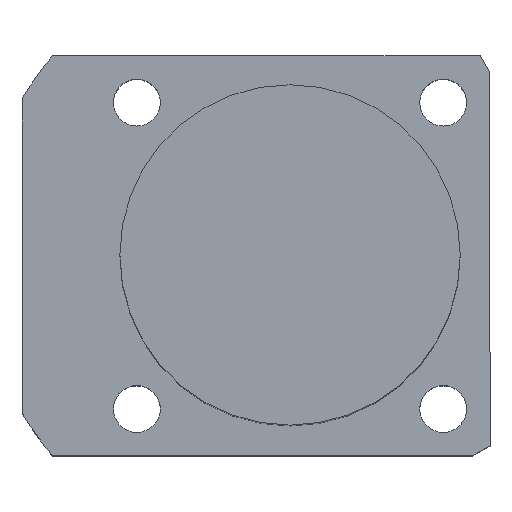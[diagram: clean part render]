
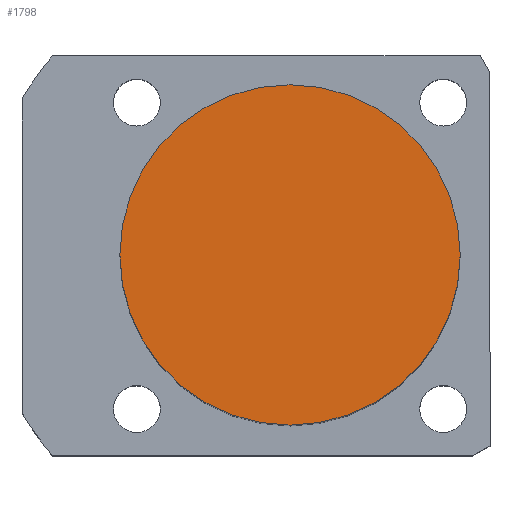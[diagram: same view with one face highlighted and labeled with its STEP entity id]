
A CAD part, top view. The second image highlights one B-rep face of the part: STEP entity #1798.
In plain terms, the highlighted planar face has unit normal (0, 0, 1).
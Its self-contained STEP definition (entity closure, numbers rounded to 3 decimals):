
#11 = VERTEX_POINT ( 'NONE', #1895 ) ;
#128 = DIRECTION ( 'NONE',  ( 1., 0., 0. ) ) ;
#138 = CARTESIAN_POINT ( 'NONE',  ( 20., 0., 71.5 ) ) ;
#293 = CARTESIAN_POINT ( 'NONE',  ( 0., 0., 71.5 ) ) ;
#309 = DIRECTION ( 'NONE',  ( 0., 0., 1. ) ) ;
#418 = AXIS2_PLACEMENT_3D ( 'NONE', #293, #458, #128 ) ;
#456 = DIRECTION ( 'NONE',  ( 0., 0., 1. ) ) ;
#458 = DIRECTION ( 'NONE',  ( 0., 0., 1. ) ) ;
#612 = DIRECTION ( 'NONE',  ( 1., 0., 0. ) ) ;
#836 = ORIENTED_EDGE ( 'NONE', *, *, #1555, .T. ) ;
#875 = FACE_OUTER_BOUND ( 'NONE', #1158, .T. ) ;
#877 = PLANE ( 'NONE',  #418 ) ;
#884 = DIRECTION ( 'NONE',  ( 1., 0., 0. ) ) ;
#934 = CIRCLE ( 'NONE', #1087, 20. ) ;
#1018 = CIRCLE ( 'NONE', #1050, 20. ) ;
#1050 = AXIS2_PLACEMENT_3D ( 'NONE', #1332, #309, #884 ) ;
#1087 = AXIS2_PLACEMENT_3D ( 'NONE', #1613, #456, #612 ) ;
#1158 = EDGE_LOOP ( 'NONE', ( #1290, #836 ) ) ;
#1290 = ORIENTED_EDGE ( 'NONE', *, *, #1799, .T. ) ;
#1316 = VERTEX_POINT ( 'NONE', #138 ) ;
#1332 = CARTESIAN_POINT ( 'NONE',  ( 0., 0., 71.5 ) ) ;
#1555 = EDGE_CURVE ( 'NONE', #1316, #11, #934, .T. ) ;
#1613 = CARTESIAN_POINT ( 'NONE',  ( 0., 0., 71.5 ) ) ;
#1798 = ADVANCED_FACE ( 'NONE', ( #875 ), #877, .T. ) ;
#1799 = EDGE_CURVE ( 'NONE', #11, #1316, #1018, .T. ) ;
#1895 = CARTESIAN_POINT ( 'NONE',  ( -20., 0., 71.5 ) ) ;
